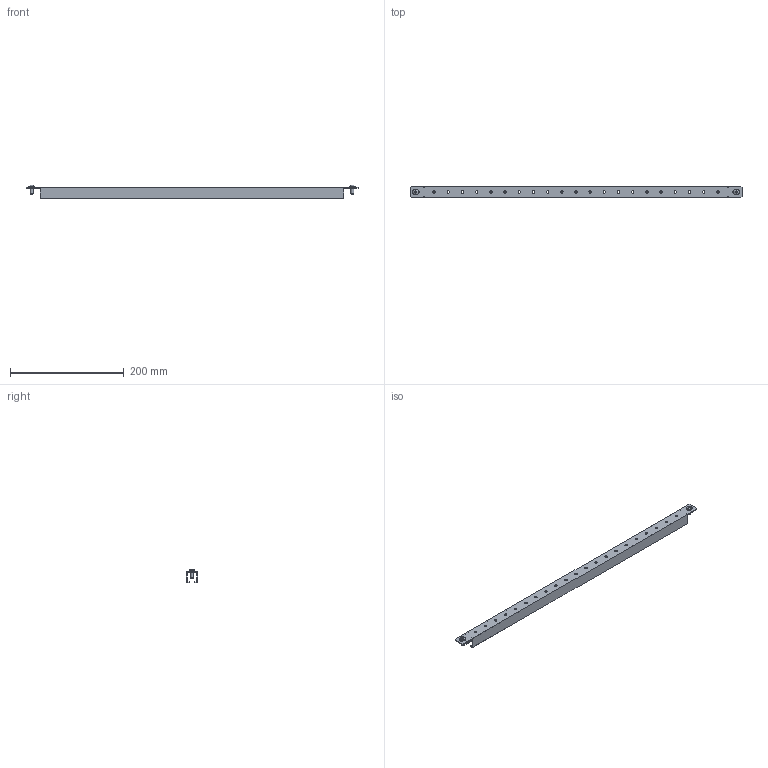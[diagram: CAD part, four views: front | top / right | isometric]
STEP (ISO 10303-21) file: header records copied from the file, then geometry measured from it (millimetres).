
FILE_DESCRIPTION(('Open CASCADE Model'),'2;1');
FILE_NAME('Open CASCADE Shape Model','2025-02-21T13:53:34',('Author'),( 'Open CASCADE'),'Open CASCADE STEP processor 7.8','Open CASCADE 7.8' ,'Unknown');
FILE_SCHEMA(('AUTOMOTIVE_DESIGN { 1 0 10303 214 1 1 1 1 }'));
Length unit declared in the file: millimetre
Products named in the file (3): Compound1; Solid1; Solid2
Assembly tree (3 placements, depth 2):
  Compound1
    Solid1
    Solid2  x2
Bounding box: 585 x 20 x 23.56 mm (x, y, z)
Volume: 53863.1 mm3; surface area: 74013.2 mm2
Topology: 3 solids, 3 shells, 107 faces, 279 edges, 180 vertices
Faces by surface type: plane 66, cylinder 29, torus 4, cone 4, sphere 2, bspline 2
Full cylindrical faces by diameter (mm): 4.2 x21, 5 x2, 9.5 x2
Entity records: 3330 total; most frequent: CARTESIAN_POINT 899, ORIENTED_EDGE 496, DIRECTION 464, EDGE_CURVE 248, VERTEX_POINT 163, AXIS2_PLACEMENT_3D 158, LINE 148, VECTOR 148
